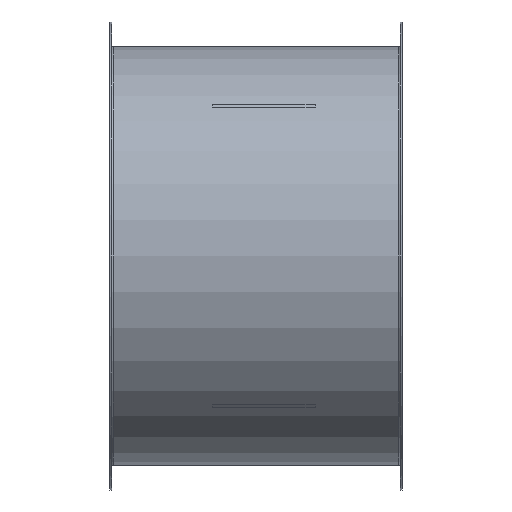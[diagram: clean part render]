
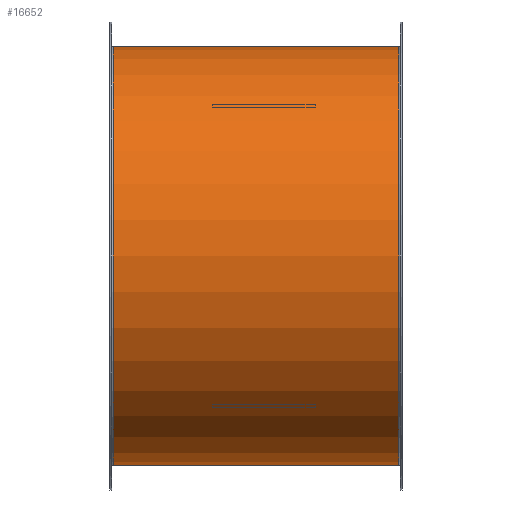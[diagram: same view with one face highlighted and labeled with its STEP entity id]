
A CAD part, front view. The second image highlights one B-rep face of the part: STEP entity #16652.
In plain terms, the highlighted cylindrical face has radius 358 mm (diameter 716 mm), a partial arc.
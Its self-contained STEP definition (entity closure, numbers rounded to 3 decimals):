
#403 = ORIENTED_EDGE ( 'NONE', *, *, #49180, .F. ) ;
#2811 = CYLINDRICAL_SURFACE ( 'NONE', #40643, 358. ) ;
#5628 = DIRECTION ( 'NONE',  ( -1., 0., 0. ) ) ;
#5906 = AXIS2_PLACEMENT_3D ( 'NONE', #32023, #25721, #19434 ) ;
#9459 = EDGE_LOOP ( 'NONE', ( #75230, #62494, #52050, #403 ) ) ;
#13889 = DIRECTION ( 'NONE',  ( -1., 0., 0. ) ) ;
#15452 = EDGE_CURVE ( 'NONE', #28306, #32573, #22471, .T. ) ;
#16652 = ADVANCED_FACE ( 'NONE', ( #35139 ), #2811, .T. ) ;
#19434 = DIRECTION ( 'NONE',  ( 0., 0., 1. ) ) ;
#20122 = CARTESIAN_POINT ( 'NONE',  ( -882.213, 0., 358. ) ) ;
#22471 = LINE ( 'NONE', #48347, #78323 ) ;
#25721 = DIRECTION ( 'NONE',  ( -1., 0., 0. ) ) ;
#28306 = VERTEX_POINT ( 'NONE', #40854 ) ;
#31398 = CIRCLE ( 'NONE', #5906, 358. ) ;
#32023 = CARTESIAN_POINT ( 'NONE',  ( -244., 0., 0. ) ) ;
#32573 = VERTEX_POINT ( 'NONE', #79485 ) ;
#35139 = FACE_OUTER_BOUND ( 'NONE', #9459, .T. ) ;
#36418 = EDGE_CURVE ( 'NONE', #41118, #63141, #38262, .T. ) ;
#38262 = LINE ( 'NONE', #20122, #67593 ) ;
#40643 = AXIS2_PLACEMENT_3D ( 'NONE', #45451, #58307, #41348 ) ;
#40854 = CARTESIAN_POINT ( 'NONE',  ( 244., 0., -358. ) ) ;
#41118 = VERTEX_POINT ( 'NONE', #55653 ) ;
#41348 = DIRECTION ( 'NONE',  ( 0., 0., 1. ) ) ;
#43400 = DIRECTION ( 'NONE',  ( 0., 0., 1. ) ) ;
#45451 = CARTESIAN_POINT ( 'NONE',  ( -882.213, 0., 0. ) ) ;
#48347 = CARTESIAN_POINT ( 'NONE',  ( -882.213, 0., -358. ) ) ;
#49180 = EDGE_CURVE ( 'NONE', #32573, #63141, #31398, .T. ) ;
#50915 = CIRCLE ( 'NONE', #75815, 358. ) ;
#51250 = CARTESIAN_POINT ( 'NONE',  ( -244., 0., 358. ) ) ;
#52050 = ORIENTED_EDGE ( 'NONE', *, *, #36418, .T. ) ;
#55653 = CARTESIAN_POINT ( 'NONE',  ( 244., 0., 358. ) ) ;
#58307 = DIRECTION ( 'NONE',  ( -1., 0., 0. ) ) ;
#62494 = ORIENTED_EDGE ( 'NONE', *, *, #76464, .T. ) ;
#63141 = VERTEX_POINT ( 'NONE', #51250 ) ;
#67442 = DIRECTION ( 'NONE',  ( -1., 0., 0. ) ) ;
#67593 = VECTOR ( 'NONE', #13889, 1000. ) ;
#74286 = CARTESIAN_POINT ( 'NONE',  ( 244., 0., 0. ) ) ;
#75230 = ORIENTED_EDGE ( 'NONE', *, *, #15452, .F. ) ;
#75815 = AXIS2_PLACEMENT_3D ( 'NONE', #74286, #5628, #43400 ) ;
#76464 = EDGE_CURVE ( 'NONE', #28306, #41118, #50915, .T. ) ;
#78323 = VECTOR ( 'NONE', #67442, 1000. ) ;
#79485 = CARTESIAN_POINT ( 'NONE',  ( -244., 0., -358. ) ) ;
